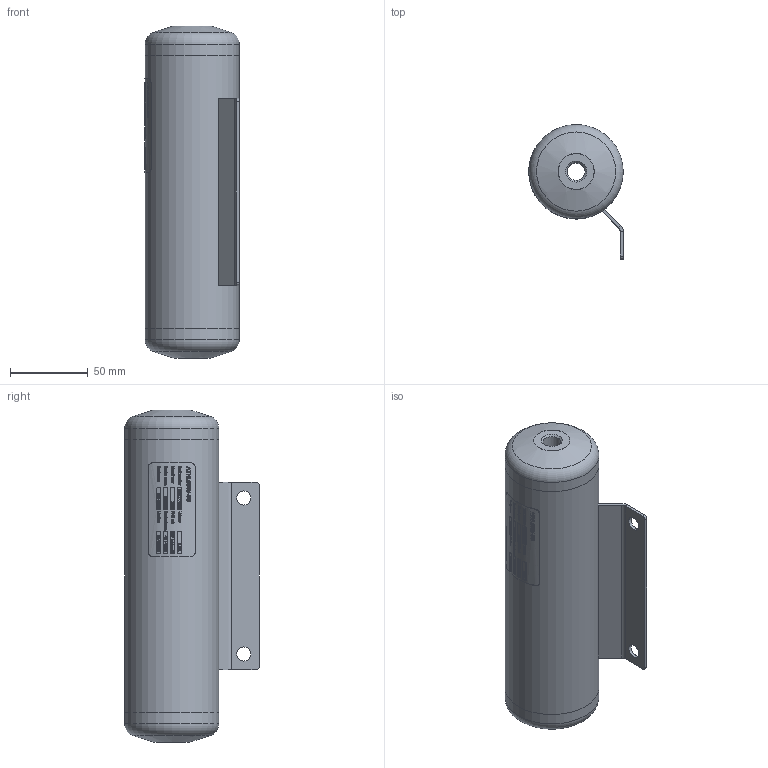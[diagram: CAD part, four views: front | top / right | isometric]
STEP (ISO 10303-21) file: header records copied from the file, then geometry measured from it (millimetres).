
FILE_DESCRIPTION(/* description */ (''),/* implementation_level */ '2;1');
FILE_NAME(/* name */ 'ATNL0005-SS 0.50L.stp',/* time_stamp */ '2022-11-07T13:23:02+01:00',/* author */ ('harm'),/* organization */ (''),/* preprocessor_version */ 'ST-DEVELOPER v19.2',/* originating_system */ 'Autodesk Inventor 2023',/* authorisation */ '');
FILE_SCHEMA (('AUTOMOTIVE_DESIGN { 1 0 10303 214 3 1 1 }'));
Length unit declared in the file: millimetre
Products named in the file (6): -; Tube; -_1; 24866; -_2; -_3
Assembly tree (7 placements, depth 2):
  -
    Tube
    -_1  x2
    24866  x2
    -_2
    -_3
Bounding box: 60.5 x 86.25 x 212.82 mm (x, y, z)
Volume: 95088.4 mm3; surface area: 99778.3 mm2
Topology: 7 solids, 7 shells, 2405 faces, 6442 edges, 4292 vertices
Faces by surface type: bspline 1372, plane 754, cylinder 263, torus 6, cone 6, sphere 4
Full cylindrical faces by diameter (mm): 9 x2, 11.445 x2, 19 x2, 23 x2, 23.2 x2, 56.3 x3, 60.3 x3
Entity records: 105185 total; most frequent: CARTESIAN_POINT 53704, ORIENTED_EDGE 12812, DIRECTION 6455, EDGE_CURVE 6406, VERTEX_POINT 4268, LINE 2909, VECTOR 2909, B_SPLINE_CURVE_WITH_KNOTS 2752
